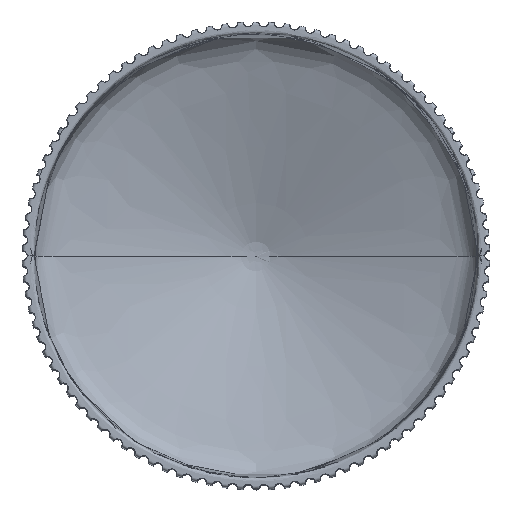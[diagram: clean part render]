
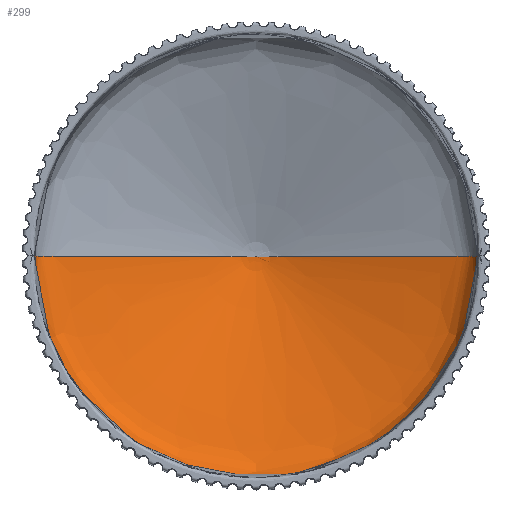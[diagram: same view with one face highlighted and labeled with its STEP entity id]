
A CAD part, top view. The second image highlights one B-rep face of the part: STEP entity #299.
In plain terms, the highlighted free-form (B-spline) face has degree [2, 3] with [5, 8] control points.
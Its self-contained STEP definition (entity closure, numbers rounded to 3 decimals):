
#299=ADVANCED_FACE('',(#493),#2368,.T.);
#493=FACE_OUTER_BOUND('',#779,.T.);
#779=EDGE_LOOP('',(#1374,#1375,#1376,#1377));
#1374=ORIENTED_EDGE('',*,*,#1481,.F.);
#1375=ORIENTED_EDGE('',*,*,#1483,.F.);
#1376=ORIENTED_EDGE('',*,*,#1676,.F.);
#1377=ORIENTED_EDGE('',*,*,#1482,.F.);
#1481=EDGE_CURVE('',#2079,#2080,#1874,.T.);
#1482=EDGE_CURVE('',#2080,#1986,#1875,.T.);
#1483=EDGE_CURVE('',#1985,#2079,#1876,.T.);
#1676=EDGE_CURVE('',#1986,#1985,#1975,.T.);
#1874=(
BOUNDED_CURVE()
B_SPLINE_CURVE(2,(#79048,#79049,#79050,#79051,#79052),.UNSPECIFIED.,.F.,
 .F.)
B_SPLINE_CURVE_WITH_KNOTS((3,2,3),(0.,58.74,117.481),
 .UNSPECIFIED.)
CURVE()
GEOMETRIC_REPRESENTATION_ITEM()
RATIONAL_B_SPLINE_CURVE((1.,0.707,1.,0.707,1.))
REPRESENTATION_ITEM('')
);
#1875=(
BOUNDED_CURVE()
B_SPLINE_CURVE(3,(#79053,#79054,#79055,#79056,#79057,#79058,#79059,#79060),
 .UNSPECIFIED.,.F.,.F.)
B_SPLINE_CURVE_WITH_KNOTS((4,1,1,1,1,4),(2.201,7.721,
15.443,23.164,30.885,38.606),
 .UNSPECIFIED.)
CURVE()
GEOMETRIC_REPRESENTATION_ITEM()
RATIONAL_B_SPLINE_CURVE((1.,1.,1.,1.,1.,1.,1.,1.))
REPRESENTATION_ITEM('')
);
#1876=(
BOUNDED_CURVE()
B_SPLINE_CURVE(3,(#79061,#79062,#79063,#79064,#79065,#79066,#79067,#79068),
 .UNSPECIFIED.,.F.,.F.)
B_SPLINE_CURVE_WITH_KNOTS((4,1,1,1,1,4),(-38.606,-30.885,
-23.164,-15.443,-7.721,-2.201),
 .UNSPECIFIED.)
CURVE()
GEOMETRIC_REPRESENTATION_ITEM()
RATIONAL_B_SPLINE_CURVE((1.,1.,1.,1.,1.,1.,1.,1.))
REPRESENTATION_ITEM('')
);
#1975=(
BOUNDED_CURVE()
B_SPLINE_CURVE(2,(#98036,#98037,#98038,#98039,#98040),.UNSPECIFIED.,.F.,
 .F.)
B_SPLINE_CURVE_WITH_KNOTS((3,2,3),(117.481,176.221,234.961),
 .UNSPECIFIED.)
CURVE()
GEOMETRIC_REPRESENTATION_ITEM()
RATIONAL_B_SPLINE_CURVE((1.,0.707,1.,0.707,1.))
REPRESENTATION_ITEM('')
);
#1985=VERTEX_POINT('',#63052);
#1986=VERTEX_POINT('',#63053);
#2079=VERTEX_POINT('',#63146);
#2080=VERTEX_POINT('',#63147);
#2368=(
BOUNDED_SURFACE()
B_SPLINE_SURFACE(2,3,((#63003,#63004,#63005,#63006,#63007,#63008,#63009,
#63010),(#63011,#63012,#63013,#63014,#63015,#63016,#63017,#63018),(#63019,
#63020,#63021,#63022,#63023,#63024,#63025,#63026),(#63027,#63028,#63029,
#63030,#63031,#63032,#63033,#63034),(#63035,#63036,#63037,#63038,#63039,
#63040,#63041,#63042)),.UNSPECIFIED.,.F.,.F.,.F.)
B_SPLINE_SURFACE_WITH_KNOTS((3,2,3),(4,1,1,1,1,4),(117.481,176.221,
234.961),(2.201,7.721,15.443,23.164,
30.885,38.606),.UNSPECIFIED.)
GEOMETRIC_REPRESENTATION_ITEM()
RATIONAL_B_SPLINE_SURFACE(((1.,1.,1.,1.,1.,1.,1.,1.),(0.707,
0.707,0.707,0.707,0.707,
0.707,0.707,0.707),(1.,1.,1.,1.,1.,
1.,1.,1.),(0.707,0.707,0.707,0.707,
0.707,0.707,0.707,0.707),
(1.,1.,1.,1.,1.,1.,1.,1.)))
REPRESENTATION_ITEM('')
SURFACE()
);
#63003=CARTESIAN_POINT('',(189.48,0.,43.439));
#63004=CARTESIAN_POINT('',(190.693,0.,43.446));
#63005=CARTESIAN_POINT('',(192.088,0.,43.606));
#63006=CARTESIAN_POINT('',(194.205,0.,44.164));
#63007=CARTESIAN_POINT('',(219.853,0.,52.256));
#63008=CARTESIAN_POINT('',(222.689,0.,53.096));
#63009=CARTESIAN_POINT('',(224.412,0.,54.348));
#63010=CARTESIAN_POINT('',(224.859,0.,56.041));
#63011=CARTESIAN_POINT('',(189.48,-0.001,43.439));
#63012=CARTESIAN_POINT('',(190.693,-1.214,43.446));
#63013=CARTESIAN_POINT('',(192.088,-2.608,43.606));
#63014=CARTESIAN_POINT('',(194.205,-4.726,44.164));
#63015=CARTESIAN_POINT('',(219.853,-30.374,52.256));
#63016=CARTESIAN_POINT('',(222.689,-33.21,53.096));
#63017=CARTESIAN_POINT('',(224.412,-34.933,54.348));
#63018=CARTESIAN_POINT('',(224.859,-35.38,56.041));
#63019=CARTESIAN_POINT('',(189.479,-0.001,43.439));
#63020=CARTESIAN_POINT('',(189.479,-1.214,43.446));
#63021=CARTESIAN_POINT('',(189.479,-2.608,43.606));
#63022=CARTESIAN_POINT('',(189.479,-4.726,44.164));
#63023=CARTESIAN_POINT('',(189.479,-30.374,52.256));
#63024=CARTESIAN_POINT('',(189.479,-33.21,53.096));
#63025=CARTESIAN_POINT('',(189.479,-34.933,54.348));
#63026=CARTESIAN_POINT('',(189.479,-35.38,56.041));
#63027=CARTESIAN_POINT('',(189.478,-0.001,43.439));
#63028=CARTESIAN_POINT('',(188.265,-1.214,43.446));
#63029=CARTESIAN_POINT('',(186.871,-2.608,43.606));
#63030=CARTESIAN_POINT('',(184.753,-4.726,44.164));
#63031=CARTESIAN_POINT('',(159.105,-30.374,52.256));
#63032=CARTESIAN_POINT('',(156.269,-33.21,53.096));
#63033=CARTESIAN_POINT('',(154.546,-34.933,54.348));
#63034=CARTESIAN_POINT('',(154.099,-35.38,56.041));
#63035=CARTESIAN_POINT('',(189.478,0.,43.439));
#63036=CARTESIAN_POINT('',(188.265,0.,43.446));
#63037=CARTESIAN_POINT('',(186.871,0.,43.606));
#63038=CARTESIAN_POINT('',(184.753,0.,44.164));
#63039=CARTESIAN_POINT('',(159.105,0.,52.256));
#63040=CARTESIAN_POINT('',(156.269,0.,53.096));
#63041=CARTESIAN_POINT('',(154.546,0.,54.348));
#63042=CARTESIAN_POINT('',(154.099,0.,56.041));
#63052=CARTESIAN_POINT('',(154.099,0.,56.041));
#63053=CARTESIAN_POINT('',(224.859,0.,56.041));
#63146=CARTESIAN_POINT('',(189.478,0.,43.439));
#63147=CARTESIAN_POINT('',(189.48,0.,43.439));
#79048=CARTESIAN_POINT('',(189.478,0.,43.439));
#79049=CARTESIAN_POINT('',(189.478,0.001,43.439));
#79050=CARTESIAN_POINT('',(189.479,0.001,43.439));
#79051=CARTESIAN_POINT('',(189.48,0.001,43.439));
#79052=CARTESIAN_POINT('',(189.48,0.,43.439));
#79053=CARTESIAN_POINT('',(189.48,0.,43.439));
#79054=CARTESIAN_POINT('',(190.693,0.,43.446));
#79055=CARTESIAN_POINT('',(192.088,0.,43.606));
#79056=CARTESIAN_POINT('',(194.205,0.,44.164));
#79057=CARTESIAN_POINT('',(219.853,0.,52.256));
#79058=CARTESIAN_POINT('',(222.689,0.,53.096));
#79059=CARTESIAN_POINT('',(224.412,0.,54.348));
#79060=CARTESIAN_POINT('',(224.859,0.,56.041));
#79061=CARTESIAN_POINT('',(154.099,0.,56.041));
#79062=CARTESIAN_POINT('',(154.546,0.,54.348));
#79063=CARTESIAN_POINT('',(156.269,0.,53.096));
#79064=CARTESIAN_POINT('',(159.105,0.,52.256));
#79065=CARTESIAN_POINT('',(184.753,0.,44.164));
#79066=CARTESIAN_POINT('',(186.871,0.,43.606));
#79067=CARTESIAN_POINT('',(188.265,0.,43.446));
#79068=CARTESIAN_POINT('',(189.478,0.,43.439));
#98036=CARTESIAN_POINT('',(224.859,0.,56.041));
#98037=CARTESIAN_POINT('',(224.859,-35.38,56.041));
#98038=CARTESIAN_POINT('',(189.479,-35.38,56.041));
#98039=CARTESIAN_POINT('',(154.099,-35.38,56.041));
#98040=CARTESIAN_POINT('',(154.099,0.,56.041));
